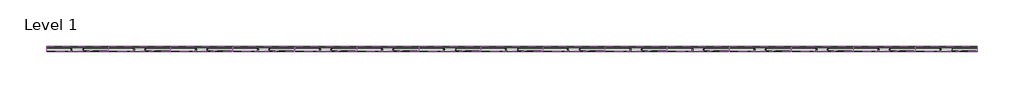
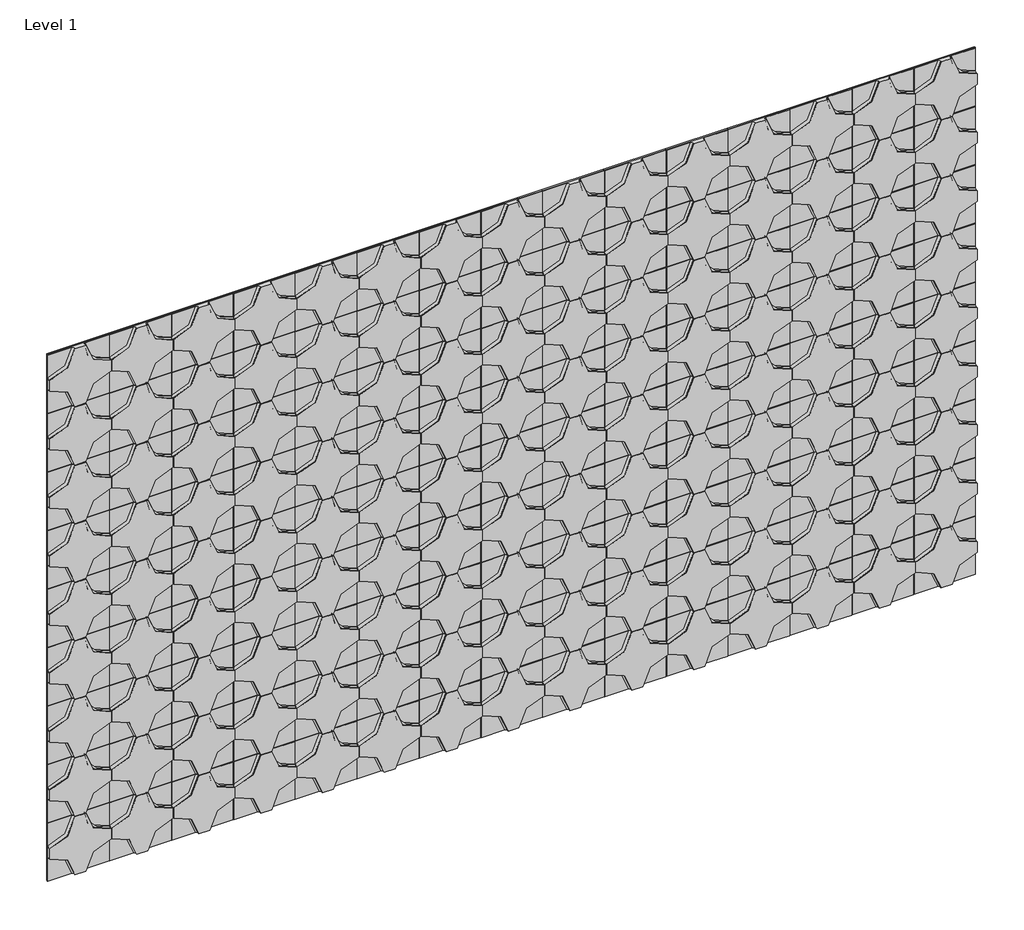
# One storey: 135 proxies.
"""IFC4 building model written with IfcOpenShell, lengths in millimetres."""

from ifc_helpers import new_model, si_unit, origin, place, context, project, spatial, transform, mapped, element, save
from components import specialty_equipment_d3eebbf5

model = new_model("IFC4")

# Units and contexts
model_context = context("Model", 3, world=origin())
ifc_project = project(units=[si_unit("LENGTHUNIT", "METRE", prefix="MILLI")], contexts=[model_context])

# Site, building, storey
site = spatial("IfcSite", under=ifc_project)
building = spatial("IfcBuilding", under=site)
storey = spatial("IfcBuildingStorey", under=building, Name="Level 1", Elevation=0.0)

# Proxies
placement = place(None, origin())
specialty_equipment_shape = specialty_equipment_d3eebbf5(model_context)
element("IfcBuildingElementProxy", 1, Name="Spinneybeck_Quartile : Quartile 1", ObjectType="Spinneybeck_Quartile : Quartile 1", at=placement, inside=storey, context=model_context, shape_type="MappedRepresentation", body=[
    mapped(specialty_equipment_shape, transform((-9133.2606366, 2074.1714817, 152.4), x_axis=(1.0, 0.0, 0.0), y_axis=(0.0, 0.0, 1.0), z_axis=(0.0, -1.0, 0.0))),
])
element("IfcBuildingElementProxy", 2, Name="Spinneybeck_Quartile : Quartile 1", ObjectType="Spinneybeck_Quartile : Quartile 1", at=placement, inside=storey, context=model_context, shape_type="MappedRepresentation", body=[
    mapped(specialty_equipment_shape, transform((-8828.4606366, 2074.1714817, 152.4), x_axis=(1.0, 0.0, 0.0), y_axis=(0.0, 0.0, 1.0), z_axis=(0.0, -1.0, 0.0))),
])
element("IfcBuildingElementProxy", 3, Name="Spinneybeck_Quartile : Quartile 1", ObjectType="Spinneybeck_Quartile : Quartile 1", at=placement, inside=storey, context=model_context, shape_type="MappedRepresentation", body=[
    mapped(specialty_equipment_shape, transform((-8523.6606366, 2074.1714817, 152.4), x_axis=(1.0, 0.0, 0.0), y_axis=(0.0, 0.0, 1.0), z_axis=(0.0, -1.0, 0.0))),
])
element("IfcBuildingElementProxy", 4, Name="Spinneybeck_Quartile : Quartile 1", ObjectType="Spinneybeck_Quartile : Quartile 1", at=placement, inside=storey, context=model_context, shape_type="MappedRepresentation", body=[
    mapped(specialty_equipment_shape, transform((-8218.8606366, 2074.1714817, 152.4), x_axis=(1.0, 0.0, 0.0), y_axis=(0.0, 0.0, 1.0), z_axis=(0.0, -1.0, 0.0))),
])
element("IfcBuildingElementProxy", 5, Name="Spinneybeck_Quartile : Quartile 1", ObjectType="Spinneybeck_Quartile : Quartile 1", at=placement, inside=storey, context=model_context, shape_type="MappedRepresentation", body=[
    mapped(specialty_equipment_shape, transform((-7914.0606366, 2074.1714817, 152.4), x_axis=(1.0, 0.0, 0.0), y_axis=(0.0, 0.0, 1.0), z_axis=(0.0, -1.0, 0.0))),
])
element("IfcBuildingElementProxy", 6, Name="Spinneybeck_Quartile : Quartile 1", ObjectType="Spinneybeck_Quartile : Quartile 1", at=placement, inside=storey, context=model_context, shape_type="MappedRepresentation", body=[
    mapped(specialty_equipment_shape, transform((-7609.2606366, 2074.1714817, 152.4), x_axis=(1.0, 0.0, 0.0), y_axis=(0.0, 0.0, 1.0), z_axis=(0.0, -1.0, 0.0))),
])
element("IfcBuildingElementProxy", 7, Name="Spinneybeck_Quartile : Quartile 1", ObjectType="Spinneybeck_Quartile : Quartile 1", at=placement, inside=storey, context=model_context, shape_type="MappedRepresentation", body=[
    mapped(specialty_equipment_shape, transform((-7304.4606366, 2074.1714817, 152.4), x_axis=(1.0, 0.0, 0.0), y_axis=(0.0, 0.0, 1.0), z_axis=(0.0, -1.0, 0.0))),
])
element("IfcBuildingElementProxy", 8, Name="Spinneybeck_Quartile : Quartile 1", ObjectType="Spinneybeck_Quartile : Quartile 1", at=placement, inside=storey, context=model_context, shape_type="MappedRepresentation", body=[
    mapped(specialty_equipment_shape, transform((-6999.6606366, 2074.1714817, 152.4), x_axis=(1.0, 0.0, 0.0), y_axis=(0.0, 0.0, 1.0), z_axis=(0.0, -1.0, 0.0))),
])
element("IfcBuildingElementProxy", 9, Name="Spinneybeck_Quartile : Quartile 1", ObjectType="Spinneybeck_Quartile : Quartile 1", at=placement, inside=storey, context=model_context, shape_type="MappedRepresentation", body=[
    mapped(specialty_equipment_shape, transform((-6694.8606366, 2074.1714817, 152.4), x_axis=(1.0, 0.0, 0.0), y_axis=(0.0, 0.0, 1.0), z_axis=(0.0, -1.0, 0.0))),
])
element("IfcBuildingElementProxy", 10, Name="Spinneybeck_Quartile : Quartile 1", ObjectType="Spinneybeck_Quartile : Quartile 1", at=placement, inside=storey, context=model_context, shape_type="MappedRepresentation", body=[
    mapped(specialty_equipment_shape, transform((-6390.0606366, 2074.1714817, 152.4), x_axis=(1.0, 0.0, 0.0), y_axis=(0.0, 0.0, 1.0), z_axis=(0.0, -1.0, 0.0))),
])
element("IfcBuildingElementProxy", 11, Name="Spinneybeck_Quartile : Quartile 1", ObjectType="Spinneybeck_Quartile : Quartile 1", at=placement, inside=storey, context=model_context, shape_type="MappedRepresentation", body=[
    mapped(specialty_equipment_shape, transform((-6085.2606366, 2074.1714817, 152.4), x_axis=(1.0, 0.0, 0.0), y_axis=(0.0, 0.0, 1.0), z_axis=(0.0, -1.0, 0.0))),
])
element("IfcBuildingElementProxy", 12, Name="Spinneybeck_Quartile : Quartile 1", ObjectType="Spinneybeck_Quartile : Quartile 1", at=placement, inside=storey, context=model_context, shape_type="MappedRepresentation", body=[
    mapped(specialty_equipment_shape, transform((-5780.4606366, 2074.1714817, 152.4), x_axis=(1.0, 0.0, 0.0), y_axis=(0.0, 0.0, 1.0), z_axis=(0.0, -1.0, 0.0))),
])
element("IfcBuildingElementProxy", 13, Name="Spinneybeck_Quartile : Quartile 1", ObjectType="Spinneybeck_Quartile : Quartile 1", at=placement, inside=storey, context=model_context, shape_type="MappedRepresentation", body=[
    mapped(specialty_equipment_shape, transform((-5475.6606366, 2074.1714817, 152.4), x_axis=(1.0, 0.0, 0.0), y_axis=(0.0, 0.0, 1.0), z_axis=(0.0, -1.0, 0.0))),
])
element("IfcBuildingElementProxy", 14, Name="Spinneybeck_Quartile : Quartile 1", ObjectType="Spinneybeck_Quartile : Quartile 1", at=placement, inside=storey, context=model_context, shape_type="MappedRepresentation", body=[
    mapped(specialty_equipment_shape, transform((-5170.8606366, 2074.1714817, 152.4), x_axis=(1.0, 0.0, 0.0), y_axis=(0.0, 0.0, 1.0), z_axis=(0.0, -1.0, 0.0))),
])
element("IfcBuildingElementProxy", 15, Name="Spinneybeck_Quartile : Quartile 1", ObjectType="Spinneybeck_Quartile : Quartile 1", at=placement, inside=storey, context=model_context, shape_type="MappedRepresentation", body=[
    mapped(specialty_equipment_shape, transform((-4866.0606366, 2074.1714817, 152.4), x_axis=(1.0, 0.0, 0.0), y_axis=(0.0, 0.0, 1.0), z_axis=(0.0, -1.0, 0.0))),
])
element("IfcBuildingElementProxy", 16, Name="Spinneybeck_Quartile : Quartile 1", ObjectType="Spinneybeck_Quartile : Quartile 1", at=placement, inside=storey, context=model_context, shape_type="MappedRepresentation", body=[
    mapped(specialty_equipment_shape, transform((-9133.2606366, 2074.1714817, 457.2), x_axis=(1.0, 0.0, 0.0), y_axis=(0.0, 0.0, 1.0), z_axis=(0.0, -1.0, 0.0))),
])
element("IfcBuildingElementProxy", 17, Name="Spinneybeck_Quartile : Quartile 1", ObjectType="Spinneybeck_Quartile : Quartile 1", at=placement, inside=storey, context=model_context, shape_type="MappedRepresentation", body=[
    mapped(specialty_equipment_shape, transform((-8828.4606366, 2074.1714817, 457.2), x_axis=(1.0, 0.0, 0.0), y_axis=(0.0, 0.0, 1.0), z_axis=(0.0, -1.0, 0.0))),
])
element("IfcBuildingElementProxy", 18, Name="Spinneybeck_Quartile : Quartile 1", ObjectType="Spinneybeck_Quartile : Quartile 1", at=placement, inside=storey, context=model_context, shape_type="MappedRepresentation", body=[
    mapped(specialty_equipment_shape, transform((-8523.6606366, 2074.1714817, 457.2), x_axis=(1.0, 0.0, 0.0), y_axis=(0.0, 0.0, 1.0), z_axis=(0.0, -1.0, 0.0))),
])
element("IfcBuildingElementProxy", 19, Name="Spinneybeck_Quartile : Quartile 1", ObjectType="Spinneybeck_Quartile : Quartile 1", at=placement, inside=storey, context=model_context, shape_type="MappedRepresentation", body=[
    mapped(specialty_equipment_shape, transform((-8218.8606366, 2074.1714817, 457.2), x_axis=(1.0, 0.0, 0.0), y_axis=(0.0, 0.0, 1.0), z_axis=(0.0, -1.0, 0.0))),
])
element("IfcBuildingElementProxy", 20, Name="Spinneybeck_Quartile : Quartile 1", ObjectType="Spinneybeck_Quartile : Quartile 1", at=placement, inside=storey, context=model_context, shape_type="MappedRepresentation", body=[
    mapped(specialty_equipment_shape, transform((-7914.0606366, 2074.1714817, 457.2), x_axis=(1.0, 0.0, 0.0), y_axis=(0.0, 0.0, 1.0), z_axis=(0.0, -1.0, 0.0))),
])
element("IfcBuildingElementProxy", 21, Name="Spinneybeck_Quartile : Quartile 1", ObjectType="Spinneybeck_Quartile : Quartile 1", at=placement, inside=storey, context=model_context, shape_type="MappedRepresentation", body=[
    mapped(specialty_equipment_shape, transform((-7609.2606366, 2074.1714817, 457.2), x_axis=(1.0, 0.0, 0.0), y_axis=(0.0, 0.0, 1.0), z_axis=(0.0, -1.0, 0.0))),
])
element("IfcBuildingElementProxy", 22, Name="Spinneybeck_Quartile : Quartile 1", ObjectType="Spinneybeck_Quartile : Quartile 1", at=placement, inside=storey, context=model_context, shape_type="MappedRepresentation", body=[
    mapped(specialty_equipment_shape, transform((-7304.4606366, 2074.1714817, 457.2), x_axis=(1.0, 0.0, 0.0), y_axis=(0.0, 0.0, 1.0), z_axis=(0.0, -1.0, 0.0))),
])
element("IfcBuildingElementProxy", 23, Name="Spinneybeck_Quartile : Quartile 1", ObjectType="Spinneybeck_Quartile : Quartile 1", at=placement, inside=storey, context=model_context, shape_type="MappedRepresentation", body=[
    mapped(specialty_equipment_shape, transform((-6999.6606366, 2074.1714817, 457.2), x_axis=(1.0, 0.0, 0.0), y_axis=(0.0, 0.0, 1.0), z_axis=(0.0, -1.0, 0.0))),
])
element("IfcBuildingElementProxy", 24, Name="Spinneybeck_Quartile : Quartile 1", ObjectType="Spinneybeck_Quartile : Quartile 1", at=placement, inside=storey, context=model_context, shape_type="MappedRepresentation", body=[
    mapped(specialty_equipment_shape, transform((-6694.8606366, 2074.1714817, 457.2), x_axis=(1.0, 0.0, 0.0), y_axis=(0.0, 0.0, 1.0), z_axis=(0.0, -1.0, 0.0))),
])
element("IfcBuildingElementProxy", 25, Name="Spinneybeck_Quartile : Quartile 1", ObjectType="Spinneybeck_Quartile : Quartile 1", at=placement, inside=storey, context=model_context, shape_type="MappedRepresentation", body=[
    mapped(specialty_equipment_shape, transform((-6390.0606366, 2074.1714817, 457.2), x_axis=(1.0, 0.0, 0.0), y_axis=(0.0, 0.0, 1.0), z_axis=(0.0, -1.0, 0.0))),
])
element("IfcBuildingElementProxy", 26, Name="Spinneybeck_Quartile : Quartile 1", ObjectType="Spinneybeck_Quartile : Quartile 1", at=placement, inside=storey, context=model_context, shape_type="MappedRepresentation", body=[
    mapped(specialty_equipment_shape, transform((-6085.2606366, 2074.1714817, 457.2), x_axis=(1.0, 0.0, 0.0), y_axis=(0.0, 0.0, 1.0), z_axis=(0.0, -1.0, 0.0))),
])
element("IfcBuildingElementProxy", 27, Name="Spinneybeck_Quartile : Quartile 1", ObjectType="Spinneybeck_Quartile : Quartile 1", at=placement, inside=storey, context=model_context, shape_type="MappedRepresentation", body=[
    mapped(specialty_equipment_shape, transform((-5780.4606366, 2074.1714817, 457.2), x_axis=(1.0, 0.0, 0.0), y_axis=(0.0, 0.0, 1.0), z_axis=(0.0, -1.0, 0.0))),
])
element("IfcBuildingElementProxy", 28, Name="Spinneybeck_Quartile : Quartile 1", ObjectType="Spinneybeck_Quartile : Quartile 1", at=placement, inside=storey, context=model_context, shape_type="MappedRepresentation", body=[
    mapped(specialty_equipment_shape, transform((-5475.6606366, 2074.1714817, 457.2), x_axis=(1.0, 0.0, 0.0), y_axis=(0.0, 0.0, 1.0), z_axis=(0.0, -1.0, 0.0))),
])
element("IfcBuildingElementProxy", 29, Name="Spinneybeck_Quartile : Quartile 1", ObjectType="Spinneybeck_Quartile : Quartile 1", at=placement, inside=storey, context=model_context, shape_type="MappedRepresentation", body=[
    mapped(specialty_equipment_shape, transform((-5170.8606366, 2074.1714817, 457.2), x_axis=(1.0, 0.0, 0.0), y_axis=(0.0, 0.0, 1.0), z_axis=(0.0, -1.0, 0.0))),
])
element("IfcBuildingElementProxy", 30, Name="Spinneybeck_Quartile : Quartile 1", ObjectType="Spinneybeck_Quartile : Quartile 1", at=placement, inside=storey, context=model_context, shape_type="MappedRepresentation", body=[
    mapped(specialty_equipment_shape, transform((-4866.0606366, 2074.1714817, 457.2), x_axis=(1.0, 0.0, 0.0), y_axis=(0.0, 0.0, 1.0), z_axis=(0.0, -1.0, 0.0))),
])
element("IfcBuildingElementProxy", 31, Name="Spinneybeck_Quartile : Quartile 1", ObjectType="Spinneybeck_Quartile : Quartile 1", at=placement, inside=storey, context=model_context, shape_type="MappedRepresentation", body=[
    mapped(specialty_equipment_shape, transform((-9133.2606366, 2074.1714817, 762.0), x_axis=(1.0, 0.0, 0.0), y_axis=(0.0, 0.0, 1.0), z_axis=(0.0, -1.0, 0.0))),
])
element("IfcBuildingElementProxy", 32, Name="Spinneybeck_Quartile : Quartile 1", ObjectType="Spinneybeck_Quartile : Quartile 1", at=placement, inside=storey, context=model_context, shape_type="MappedRepresentation", body=[
    mapped(specialty_equipment_shape, transform((-8828.4606366, 2074.1714817, 762.0), x_axis=(1.0, 0.0, 0.0), y_axis=(0.0, 0.0, 1.0), z_axis=(0.0, -1.0, 0.0))),
])
element("IfcBuildingElementProxy", 33, Name="Spinneybeck_Quartile : Quartile 1", ObjectType="Spinneybeck_Quartile : Quartile 1", at=placement, inside=storey, context=model_context, shape_type="MappedRepresentation", body=[
    mapped(specialty_equipment_shape, transform((-8523.6606366, 2074.1714817, 762.0), x_axis=(1.0, 0.0, 0.0), y_axis=(0.0, 0.0, 1.0), z_axis=(0.0, -1.0, 0.0))),
])
element("IfcBuildingElementProxy", 34, Name="Spinneybeck_Quartile : Quartile 1", ObjectType="Spinneybeck_Quartile : Quartile 1", at=placement, inside=storey, context=model_context, shape_type="MappedRepresentation", body=[
    mapped(specialty_equipment_shape, transform((-8218.8606366, 2074.1714817, 762.0), x_axis=(1.0, 0.0, 0.0), y_axis=(0.0, 0.0, 1.0), z_axis=(0.0, -1.0, 0.0))),
])
element("IfcBuildingElementProxy", 35, Name="Spinneybeck_Quartile : Quartile 1", ObjectType="Spinneybeck_Quartile : Quartile 1", at=placement, inside=storey, context=model_context, shape_type="MappedRepresentation", body=[
    mapped(specialty_equipment_shape, transform((-7914.0606366, 2074.1714817, 762.0), x_axis=(1.0, 0.0, 0.0), y_axis=(0.0, 0.0, 1.0), z_axis=(0.0, -1.0, 0.0))),
])
element("IfcBuildingElementProxy", 36, Name="Spinneybeck_Quartile : Quartile 1", ObjectType="Spinneybeck_Quartile : Quartile 1", at=placement, inside=storey, context=model_context, shape_type="MappedRepresentation", body=[
    mapped(specialty_equipment_shape, transform((-7609.2606366, 2074.1714817, 762.0), x_axis=(1.0, 0.0, 0.0), y_axis=(0.0, 0.0, 1.0), z_axis=(0.0, -1.0, 0.0))),
])
element("IfcBuildingElementProxy", 37, Name="Spinneybeck_Quartile : Quartile 1", ObjectType="Spinneybeck_Quartile : Quartile 1", at=placement, inside=storey, context=model_context, shape_type="MappedRepresentation", body=[
    mapped(specialty_equipment_shape, transform((-7304.4606366, 2074.1714817, 762.0), x_axis=(1.0, 0.0, 0.0), y_axis=(0.0, 0.0, 1.0), z_axis=(0.0, -1.0, 0.0))),
])
element("IfcBuildingElementProxy", 38, Name="Spinneybeck_Quartile : Quartile 1", ObjectType="Spinneybeck_Quartile : Quartile 1", at=placement, inside=storey, context=model_context, shape_type="MappedRepresentation", body=[
    mapped(specialty_equipment_shape, transform((-6999.6606366, 2074.1714817, 762.0), x_axis=(1.0, 0.0, 0.0), y_axis=(0.0, 0.0, 1.0), z_axis=(0.0, -1.0, 0.0))),
])
element("IfcBuildingElementProxy", 39, Name="Spinneybeck_Quartile : Quartile 1", ObjectType="Spinneybeck_Quartile : Quartile 1", at=placement, inside=storey, context=model_context, shape_type="MappedRepresentation", body=[
    mapped(specialty_equipment_shape, transform((-6694.8606366, 2074.1714817, 762.0), x_axis=(1.0, 0.0, 0.0), y_axis=(0.0, 0.0, 1.0), z_axis=(0.0, -1.0, 0.0))),
])
element("IfcBuildingElementProxy", 40, Name="Spinneybeck_Quartile : Quartile 1", ObjectType="Spinneybeck_Quartile : Quartile 1", at=placement, inside=storey, context=model_context, shape_type="MappedRepresentation", body=[
    mapped(specialty_equipment_shape, transform((-6390.0606366, 2074.1714817, 762.0), x_axis=(1.0, 0.0, 0.0), y_axis=(0.0, 0.0, 1.0), z_axis=(0.0, -1.0, 0.0))),
])
element("IfcBuildingElementProxy", 41, Name="Spinneybeck_Quartile : Quartile 1", ObjectType="Spinneybeck_Quartile : Quartile 1", at=placement, inside=storey, context=model_context, shape_type="MappedRepresentation", body=[
    mapped(specialty_equipment_shape, transform((-6085.2606366, 2074.1714817, 762.0), x_axis=(1.0, 0.0, 0.0), y_axis=(0.0, 0.0, 1.0), z_axis=(0.0, -1.0, 0.0))),
])
element("IfcBuildingElementProxy", 42, Name="Spinneybeck_Quartile : Quartile 1", ObjectType="Spinneybeck_Quartile : Quartile 1", at=placement, inside=storey, context=model_context, shape_type="MappedRepresentation", body=[
    mapped(specialty_equipment_shape, transform((-5780.4606366, 2074.1714817, 762.0), x_axis=(1.0, 0.0, 0.0), y_axis=(0.0, 0.0, 1.0), z_axis=(0.0, -1.0, 0.0))),
])
element("IfcBuildingElementProxy", 43, Name="Spinneybeck_Quartile : Quartile 1", ObjectType="Spinneybeck_Quartile : Quartile 1", at=placement, inside=storey, context=model_context, shape_type="MappedRepresentation", body=[
    mapped(specialty_equipment_shape, transform((-5475.6606366, 2074.1714817, 762.0), x_axis=(1.0, 0.0, 0.0), y_axis=(0.0, 0.0, 1.0), z_axis=(0.0, -1.0, 0.0))),
])
element("IfcBuildingElementProxy", 44, Name="Spinneybeck_Quartile : Quartile 1", ObjectType="Spinneybeck_Quartile : Quartile 1", at=placement, inside=storey, context=model_context, shape_type="MappedRepresentation", body=[
    mapped(specialty_equipment_shape, transform((-5170.8606366, 2074.1714817, 762.0), x_axis=(1.0, 0.0, 0.0), y_axis=(0.0, 0.0, 1.0), z_axis=(0.0, -1.0, 0.0))),
])
element("IfcBuildingElementProxy", 45, Name="Spinneybeck_Quartile : Quartile 1", ObjectType="Spinneybeck_Quartile : Quartile 1", at=placement, inside=storey, context=model_context, shape_type="MappedRepresentation", body=[
    mapped(specialty_equipment_shape, transform((-4866.0606366, 2074.1714817, 762.0), x_axis=(1.0, 0.0, 0.0), y_axis=(0.0, 0.0, 1.0), z_axis=(0.0, -1.0, 0.0))),
])
element("IfcBuildingElementProxy", 46, Name="Spinneybeck_Quartile : Quartile 1", ObjectType="Spinneybeck_Quartile : Quartile 1", at=placement, inside=storey, context=model_context, shape_type="MappedRepresentation", body=[
    mapped(specialty_equipment_shape, transform((-9133.2606366, 2074.1714817, 1066.8), x_axis=(1.0, 0.0, 0.0), y_axis=(0.0, 0.0, 1.0), z_axis=(0.0, -1.0, 0.0))),
])
element("IfcBuildingElementProxy", 47, Name="Spinneybeck_Quartile : Quartile 1", ObjectType="Spinneybeck_Quartile : Quartile 1", at=placement, inside=storey, context=model_context, shape_type="MappedRepresentation", body=[
    mapped(specialty_equipment_shape, transform((-8828.4606366, 2074.1714817, 1066.8), x_axis=(1.0, 0.0, 0.0), y_axis=(0.0, 0.0, 1.0), z_axis=(0.0, -1.0, 0.0))),
])
element("IfcBuildingElementProxy", 48, Name="Spinneybeck_Quartile : Quartile 1", ObjectType="Spinneybeck_Quartile : Quartile 1", at=placement, inside=storey, context=model_context, shape_type="MappedRepresentation", body=[
    mapped(specialty_equipment_shape, transform((-8523.6606366, 2074.1714817, 1066.8), x_axis=(1.0, 0.0, 0.0), y_axis=(0.0, 0.0, 1.0), z_axis=(0.0, -1.0, 0.0))),
])
element("IfcBuildingElementProxy", 49, Name="Spinneybeck_Quartile : Quartile 1", ObjectType="Spinneybeck_Quartile : Quartile 1", at=placement, inside=storey, context=model_context, shape_type="MappedRepresentation", body=[
    mapped(specialty_equipment_shape, transform((-8218.8606366, 2074.1714817, 1066.8), x_axis=(1.0, 0.0, 0.0), y_axis=(0.0, 0.0, 1.0), z_axis=(0.0, -1.0, 0.0))),
])
element("IfcBuildingElementProxy", 50, Name="Spinneybeck_Quartile : Quartile 1", ObjectType="Spinneybeck_Quartile : Quartile 1", at=placement, inside=storey, context=model_context, shape_type="MappedRepresentation", body=[
    mapped(specialty_equipment_shape, transform((-7914.0606366, 2074.1714817, 1066.8), x_axis=(1.0, 0.0, 0.0), y_axis=(0.0, 0.0, 1.0), z_axis=(0.0, -1.0, 0.0))),
])
element("IfcBuildingElementProxy", 51, Name="Spinneybeck_Quartile : Quartile 1", ObjectType="Spinneybeck_Quartile : Quartile 1", at=placement, inside=storey, context=model_context, shape_type="MappedRepresentation", body=[
    mapped(specialty_equipment_shape, transform((-7609.2606366, 2074.1714817, 1066.8), x_axis=(1.0, 0.0, 0.0), y_axis=(0.0, 0.0, 1.0), z_axis=(0.0, -1.0, 0.0))),
])
element("IfcBuildingElementProxy", 52, Name="Spinneybeck_Quartile : Quartile 1", ObjectType="Spinneybeck_Quartile : Quartile 1", at=placement, inside=storey, context=model_context, shape_type="MappedRepresentation", body=[
    mapped(specialty_equipment_shape, transform((-7304.4606366, 2074.1714817, 1066.8), x_axis=(1.0, 0.0, 0.0), y_axis=(0.0, 0.0, 1.0), z_axis=(0.0, -1.0, 0.0))),
])
element("IfcBuildingElementProxy", 53, Name="Spinneybeck_Quartile : Quartile 1", ObjectType="Spinneybeck_Quartile : Quartile 1", at=placement, inside=storey, context=model_context, shape_type="MappedRepresentation", body=[
    mapped(specialty_equipment_shape, transform((-6999.6606366, 2074.1714817, 1066.8), x_axis=(1.0, 0.0, 0.0), y_axis=(0.0, 0.0, 1.0), z_axis=(0.0, -1.0, 0.0))),
])
element("IfcBuildingElementProxy", 54, Name="Spinneybeck_Quartile : Quartile 1", ObjectType="Spinneybeck_Quartile : Quartile 1", at=placement, inside=storey, context=model_context, shape_type="MappedRepresentation", body=[
    mapped(specialty_equipment_shape, transform((-6694.8606366, 2074.1714817, 1066.8), x_axis=(1.0, 0.0, 0.0), y_axis=(0.0, 0.0, 1.0), z_axis=(0.0, -1.0, 0.0))),
])
element("IfcBuildingElementProxy", 55, Name="Spinneybeck_Quartile : Quartile 1", ObjectType="Spinneybeck_Quartile : Quartile 1", at=placement, inside=storey, context=model_context, shape_type="MappedRepresentation", body=[
    mapped(specialty_equipment_shape, transform((-6390.0606366, 2074.1714817, 1066.8), x_axis=(1.0, 0.0, 0.0), y_axis=(0.0, 0.0, 1.0), z_axis=(0.0, -1.0, 0.0))),
])
element("IfcBuildingElementProxy", 56, Name="Spinneybeck_Quartile : Quartile 1", ObjectType="Spinneybeck_Quartile : Quartile 1", at=placement, inside=storey, context=model_context, shape_type="MappedRepresentation", body=[
    mapped(specialty_equipment_shape, transform((-6085.2606366, 2074.1714817, 1066.8), x_axis=(1.0, 0.0, 0.0), y_axis=(0.0, 0.0, 1.0), z_axis=(0.0, -1.0, 0.0))),
])
element("IfcBuildingElementProxy", 57, Name="Spinneybeck_Quartile : Quartile 1", ObjectType="Spinneybeck_Quartile : Quartile 1", at=placement, inside=storey, context=model_context, shape_type="MappedRepresentation", body=[
    mapped(specialty_equipment_shape, transform((-5780.4606366, 2074.1714817, 1066.8), x_axis=(1.0, 0.0, 0.0), y_axis=(0.0, 0.0, 1.0), z_axis=(0.0, -1.0, 0.0))),
])
element("IfcBuildingElementProxy", 58, Name="Spinneybeck_Quartile : Quartile 1", ObjectType="Spinneybeck_Quartile : Quartile 1", at=placement, inside=storey, context=model_context, shape_type="MappedRepresentation", body=[
    mapped(specialty_equipment_shape, transform((-5475.6606366, 2074.1714817, 1066.8), x_axis=(1.0, 0.0, 0.0), y_axis=(0.0, 0.0, 1.0), z_axis=(0.0, -1.0, 0.0))),
])
element("IfcBuildingElementProxy", 59, Name="Spinneybeck_Quartile : Quartile 1", ObjectType="Spinneybeck_Quartile : Quartile 1", at=placement, inside=storey, context=model_context, shape_type="MappedRepresentation", body=[
    mapped(specialty_equipment_shape, transform((-5170.8606366, 2074.1714817, 1066.8), x_axis=(1.0, 0.0, 0.0), y_axis=(0.0, 0.0, 1.0), z_axis=(0.0, -1.0, 0.0))),
])
element("IfcBuildingElementProxy", 60, Name="Spinneybeck_Quartile : Quartile 1", ObjectType="Spinneybeck_Quartile : Quartile 1", at=placement, inside=storey, context=model_context, shape_type="MappedRepresentation", body=[
    mapped(specialty_equipment_shape, transform((-4866.0606366, 2074.1714817, 1066.8), x_axis=(1.0, 0.0, 0.0), y_axis=(0.0, 0.0, 1.0), z_axis=(0.0, -1.0, 0.0))),
])
element("IfcBuildingElementProxy", 61, Name="Spinneybeck_Quartile : Quartile 1", ObjectType="Spinneybeck_Quartile : Quartile 1", at=placement, inside=storey, context=model_context, shape_type="MappedRepresentation", body=[
    mapped(specialty_equipment_shape, transform((-9133.2606366, 2074.1714817, 1371.6), x_axis=(1.0, 0.0, 0.0), y_axis=(0.0, 0.0, 1.0), z_axis=(0.0, -1.0, 0.0))),
])
element("IfcBuildingElementProxy", 62, Name="Spinneybeck_Quartile : Quartile 1", ObjectType="Spinneybeck_Quartile : Quartile 1", at=placement, inside=storey, context=model_context, shape_type="MappedRepresentation", body=[
    mapped(specialty_equipment_shape, transform((-8828.4606366, 2074.1714817, 1371.6), x_axis=(1.0, 0.0, 0.0), y_axis=(0.0, 0.0, 1.0), z_axis=(0.0, -1.0, 0.0))),
])
element("IfcBuildingElementProxy", 63, Name="Spinneybeck_Quartile : Quartile 1", ObjectType="Spinneybeck_Quartile : Quartile 1", at=placement, inside=storey, context=model_context, shape_type="MappedRepresentation", body=[
    mapped(specialty_equipment_shape, transform((-8523.6606366, 2074.1714817, 1371.6), x_axis=(1.0, 0.0, 0.0), y_axis=(0.0, 0.0, 1.0), z_axis=(0.0, -1.0, 0.0))),
])
element("IfcBuildingElementProxy", 64, Name="Spinneybeck_Quartile : Quartile 1", ObjectType="Spinneybeck_Quartile : Quartile 1", at=placement, inside=storey, context=model_context, shape_type="MappedRepresentation", body=[
    mapped(specialty_equipment_shape, transform((-8218.8606366, 2074.1714817, 1371.6), x_axis=(1.0, 0.0, 0.0), y_axis=(0.0, 0.0, 1.0), z_axis=(0.0, -1.0, 0.0))),
])
element("IfcBuildingElementProxy", 65, Name="Spinneybeck_Quartile : Quartile 1", ObjectType="Spinneybeck_Quartile : Quartile 1", at=placement, inside=storey, context=model_context, shape_type="MappedRepresentation", body=[
    mapped(specialty_equipment_shape, transform((-7914.0606366, 2074.1714817, 1371.6), x_axis=(1.0, 0.0, 0.0), y_axis=(0.0, 0.0, 1.0), z_axis=(0.0, -1.0, 0.0))),
])
element("IfcBuildingElementProxy", 66, Name="Spinneybeck_Quartile : Quartile 1", ObjectType="Spinneybeck_Quartile : Quartile 1", at=placement, inside=storey, context=model_context, shape_type="MappedRepresentation", body=[
    mapped(specialty_equipment_shape, transform((-7609.2606366, 2074.1714817, 1371.6), x_axis=(1.0, 0.0, 0.0), y_axis=(0.0, 0.0, 1.0), z_axis=(0.0, -1.0, 0.0))),
])
element("IfcBuildingElementProxy", 67, Name="Spinneybeck_Quartile : Quartile 1", ObjectType="Spinneybeck_Quartile : Quartile 1", at=placement, inside=storey, context=model_context, shape_type="MappedRepresentation", body=[
    mapped(specialty_equipment_shape, transform((-7304.4606366, 2074.1714817, 1371.6), x_axis=(1.0, 0.0, 0.0), y_axis=(0.0, 0.0, 1.0), z_axis=(0.0, -1.0, 0.0))),
])
element("IfcBuildingElementProxy", 68, Name="Spinneybeck_Quartile : Quartile 1", ObjectType="Spinneybeck_Quartile : Quartile 1", at=placement, inside=storey, context=model_context, shape_type="MappedRepresentation", body=[
    mapped(specialty_equipment_shape, transform((-6999.6606366, 2074.1714817, 1371.6), x_axis=(1.0, 0.0, 0.0), y_axis=(0.0, 0.0, 1.0), z_axis=(0.0, -1.0, 0.0))),
])
element("IfcBuildingElementProxy", 69, Name="Spinneybeck_Quartile : Quartile 1", ObjectType="Spinneybeck_Quartile : Quartile 1", at=placement, inside=storey, context=model_context, shape_type="MappedRepresentation", body=[
    mapped(specialty_equipment_shape, transform((-6694.8606366, 2074.1714817, 1371.6), x_axis=(1.0, 0.0, 0.0), y_axis=(0.0, 0.0, 1.0), z_axis=(0.0, -1.0, 0.0))),
])
element("IfcBuildingElementProxy", 70, Name="Spinneybeck_Quartile : Quartile 1", ObjectType="Spinneybeck_Quartile : Quartile 1", at=placement, inside=storey, context=model_context, shape_type="MappedRepresentation", body=[
    mapped(specialty_equipment_shape, transform((-6390.0606366, 2074.1714817, 1371.6), x_axis=(1.0, 0.0, 0.0), y_axis=(0.0, 0.0, 1.0), z_axis=(0.0, -1.0, 0.0))),
])
element("IfcBuildingElementProxy", 71, Name="Spinneybeck_Quartile : Quartile 1", ObjectType="Spinneybeck_Quartile : Quartile 1", at=placement, inside=storey, context=model_context, shape_type="MappedRepresentation", body=[
    mapped(specialty_equipment_shape, transform((-6085.2606366, 2074.1714817, 1371.6), x_axis=(1.0, 0.0, 0.0), y_axis=(0.0, 0.0, 1.0), z_axis=(0.0, -1.0, 0.0))),
])
element("IfcBuildingElementProxy", 72, Name="Spinneybeck_Quartile : Quartile 1", ObjectType="Spinneybeck_Quartile : Quartile 1", at=placement, inside=storey, context=model_context, shape_type="MappedRepresentation", body=[
    mapped(specialty_equipment_shape, transform((-5780.4606366, 2074.1714817, 1371.6), x_axis=(1.0, 0.0, 0.0), y_axis=(0.0, 0.0, 1.0), z_axis=(0.0, -1.0, 0.0))),
])
element("IfcBuildingElementProxy", 73, Name="Spinneybeck_Quartile : Quartile 1", ObjectType="Spinneybeck_Quartile : Quartile 1", at=placement, inside=storey, context=model_context, shape_type="MappedRepresentation", body=[
    mapped(specialty_equipment_shape, transform((-5475.6606366, 2074.1714817, 1371.6), x_axis=(1.0, 0.0, 0.0), y_axis=(0.0, 0.0, 1.0), z_axis=(0.0, -1.0, 0.0))),
])
element("IfcBuildingElementProxy", 74, Name="Spinneybeck_Quartile : Quartile 1", ObjectType="Spinneybeck_Quartile : Quartile 1", at=placement, inside=storey, context=model_context, shape_type="MappedRepresentation", body=[
    mapped(specialty_equipment_shape, transform((-5170.8606366, 2074.1714817, 1371.6), x_axis=(1.0, 0.0, 0.0), y_axis=(0.0, 0.0, 1.0), z_axis=(0.0, -1.0, 0.0))),
])
element("IfcBuildingElementProxy", 75, Name="Spinneybeck_Quartile : Quartile 1", ObjectType="Spinneybeck_Quartile : Quartile 1", at=placement, inside=storey, context=model_context, shape_type="MappedRepresentation", body=[
    mapped(specialty_equipment_shape, transform((-4866.0606366, 2074.1714817, 1371.6), x_axis=(1.0, 0.0, 0.0), y_axis=(0.0, 0.0, 1.0), z_axis=(0.0, -1.0, 0.0))),
])
element("IfcBuildingElementProxy", 76, Name="Spinneybeck_Quartile : Quartile 1", ObjectType="Spinneybeck_Quartile : Quartile 1", at=placement, inside=storey, context=model_context, shape_type="MappedRepresentation", body=[
    mapped(specialty_equipment_shape, transform((-9133.2606366, 2074.1714817, 1676.4), x_axis=(1.0, 0.0, 0.0), y_axis=(0.0, 0.0, 1.0), z_axis=(0.0, -1.0, 0.0))),
])
element("IfcBuildingElementProxy", 77, Name="Spinneybeck_Quartile : Quartile 1", ObjectType="Spinneybeck_Quartile : Quartile 1", at=placement, inside=storey, context=model_context, shape_type="MappedRepresentation", body=[
    mapped(specialty_equipment_shape, transform((-8828.4606366, 2074.1714817, 1676.4), x_axis=(1.0, 0.0, 0.0), y_axis=(0.0, 0.0, 1.0), z_axis=(0.0, -1.0, 0.0))),
])
element("IfcBuildingElementProxy", 78, Name="Spinneybeck_Quartile : Quartile 1", ObjectType="Spinneybeck_Quartile : Quartile 1", at=placement, inside=storey, context=model_context, shape_type="MappedRepresentation", body=[
    mapped(specialty_equipment_shape, transform((-8523.6606366, 2074.1714817, 1676.4), x_axis=(1.0, 0.0, 0.0), y_axis=(0.0, 0.0, 1.0), z_axis=(0.0, -1.0, 0.0))),
])
element("IfcBuildingElementProxy", 79, Name="Spinneybeck_Quartile : Quartile 1", ObjectType="Spinneybeck_Quartile : Quartile 1", at=placement, inside=storey, context=model_context, shape_type="MappedRepresentation", body=[
    mapped(specialty_equipment_shape, transform((-8218.8606366, 2074.1714817, 1676.4), x_axis=(1.0, 0.0, 0.0), y_axis=(0.0, 0.0, 1.0), z_axis=(0.0, -1.0, 0.0))),
])
element("IfcBuildingElementProxy", 80, Name="Spinneybeck_Quartile : Quartile 1", ObjectType="Spinneybeck_Quartile : Quartile 1", at=placement, inside=storey, context=model_context, shape_type="MappedRepresentation", body=[
    mapped(specialty_equipment_shape, transform((-7914.0606366, 2074.1714817, 1676.4), x_axis=(1.0, 0.0, 0.0), y_axis=(0.0, 0.0, 1.0), z_axis=(0.0, -1.0, 0.0))),
])
element("IfcBuildingElementProxy", 81, Name="Spinneybeck_Quartile : Quartile 1", ObjectType="Spinneybeck_Quartile : Quartile 1", at=placement, inside=storey, context=model_context, shape_type="MappedRepresentation", body=[
    mapped(specialty_equipment_shape, transform((-7609.2606366, 2074.1714817, 1676.4), x_axis=(1.0, 0.0, 0.0), y_axis=(0.0, 0.0, 1.0), z_axis=(0.0, -1.0, 0.0))),
])
element("IfcBuildingElementProxy", 82, Name="Spinneybeck_Quartile : Quartile 1", ObjectType="Spinneybeck_Quartile : Quartile 1", at=placement, inside=storey, context=model_context, shape_type="MappedRepresentation", body=[
    mapped(specialty_equipment_shape, transform((-7304.4606366, 2074.1714817, 1676.4), x_axis=(1.0, 0.0, 0.0), y_axis=(0.0, 0.0, 1.0), z_axis=(0.0, -1.0, 0.0))),
])
element("IfcBuildingElementProxy", 83, Name="Spinneybeck_Quartile : Quartile 1", ObjectType="Spinneybeck_Quartile : Quartile 1", at=placement, inside=storey, context=model_context, shape_type="MappedRepresentation", body=[
    mapped(specialty_equipment_shape, transform((-6999.6606366, 2074.1714817, 1676.4), x_axis=(1.0, 0.0, 0.0), y_axis=(0.0, 0.0, 1.0), z_axis=(0.0, -1.0, 0.0))),
])
element("IfcBuildingElementProxy", 84, Name="Spinneybeck_Quartile : Quartile 1", ObjectType="Spinneybeck_Quartile : Quartile 1", at=placement, inside=storey, context=model_context, shape_type="MappedRepresentation", body=[
    mapped(specialty_equipment_shape, transform((-6694.8606366, 2074.1714817, 1676.4), x_axis=(1.0, 0.0, 0.0), y_axis=(0.0, 0.0, 1.0), z_axis=(0.0, -1.0, 0.0))),
])
element("IfcBuildingElementProxy", 85, Name="Spinneybeck_Quartile : Quartile 1", ObjectType="Spinneybeck_Quartile : Quartile 1", at=placement, inside=storey, context=model_context, shape_type="MappedRepresentation", body=[
    mapped(specialty_equipment_shape, transform((-6390.0606366, 2074.1714817, 1676.4), x_axis=(1.0, 0.0, 0.0), y_axis=(0.0, 0.0, 1.0), z_axis=(0.0, -1.0, 0.0))),
])
element("IfcBuildingElementProxy", 86, Name="Spinneybeck_Quartile : Quartile 1", ObjectType="Spinneybeck_Quartile : Quartile 1", at=placement, inside=storey, context=model_context, shape_type="MappedRepresentation", body=[
    mapped(specialty_equipment_shape, transform((-6085.2606366, 2074.1714817, 1676.4), x_axis=(1.0, 0.0, 0.0), y_axis=(0.0, 0.0, 1.0), z_axis=(0.0, -1.0, 0.0))),
])
element("IfcBuildingElementProxy", 87, Name="Spinneybeck_Quartile : Quartile 1", ObjectType="Spinneybeck_Quartile : Quartile 1", at=placement, inside=storey, context=model_context, shape_type="MappedRepresentation", body=[
    mapped(specialty_equipment_shape, transform((-5780.4606366, 2074.1714817, 1676.4), x_axis=(1.0, 0.0, 0.0), y_axis=(0.0, 0.0, 1.0), z_axis=(0.0, -1.0, 0.0))),
])
element("IfcBuildingElementProxy", 88, Name="Spinneybeck_Quartile : Quartile 1", ObjectType="Spinneybeck_Quartile : Quartile 1", at=placement, inside=storey, context=model_context, shape_type="MappedRepresentation", body=[
    mapped(specialty_equipment_shape, transform((-5475.6606366, 2074.1714817, 1676.4), x_axis=(1.0, 0.0, 0.0), y_axis=(0.0, 0.0, 1.0), z_axis=(0.0, -1.0, 0.0))),
])
element("IfcBuildingElementProxy", 89, Name="Spinneybeck_Quartile : Quartile 1", ObjectType="Spinneybeck_Quartile : Quartile 1", at=placement, inside=storey, context=model_context, shape_type="MappedRepresentation", body=[
    mapped(specialty_equipment_shape, transform((-5170.8606366, 2074.1714817, 1676.4), x_axis=(1.0, 0.0, 0.0), y_axis=(0.0, 0.0, 1.0), z_axis=(0.0, -1.0, 0.0))),
])
element("IfcBuildingElementProxy", 90, Name="Spinneybeck_Quartile : Quartile 1", ObjectType="Spinneybeck_Quartile : Quartile 1", at=placement, inside=storey, context=model_context, shape_type="MappedRepresentation", body=[
    mapped(specialty_equipment_shape, transform((-4866.0606366, 2074.1714817, 1676.4), x_axis=(1.0, 0.0, 0.0), y_axis=(0.0, 0.0, 1.0), z_axis=(0.0, -1.0, 0.0))),
])
element("IfcBuildingElementProxy", 91, Name="Spinneybeck_Quartile : Quartile 1", ObjectType="Spinneybeck_Quartile : Quartile 1", at=placement, inside=storey, context=model_context, shape_type="MappedRepresentation", body=[
    mapped(specialty_equipment_shape, transform((-9133.2606366, 2074.1714817, 1981.2), x_axis=(1.0, 0.0, 0.0), y_axis=(0.0, 0.0, 1.0), z_axis=(0.0, -1.0, 0.0))),
])
element("IfcBuildingElementProxy", 92, Name="Spinneybeck_Quartile : Quartile 1", ObjectType="Spinneybeck_Quartile : Quartile 1", at=placement, inside=storey, context=model_context, shape_type="MappedRepresentation", body=[
    mapped(specialty_equipment_shape, transform((-8828.4606366, 2074.1714817, 1981.2), x_axis=(1.0, 0.0, 0.0), y_axis=(0.0, 0.0, 1.0), z_axis=(0.0, -1.0, 0.0))),
])
element("IfcBuildingElementProxy", 93, Name="Spinneybeck_Quartile : Quartile 1", ObjectType="Spinneybeck_Quartile : Quartile 1", at=placement, inside=storey, context=model_context, shape_type="MappedRepresentation", body=[
    mapped(specialty_equipment_shape, transform((-8523.6606366, 2074.1714817, 1981.2), x_axis=(1.0, 0.0, 0.0), y_axis=(0.0, 0.0, 1.0), z_axis=(0.0, -1.0, 0.0))),
])
element("IfcBuildingElementProxy", 94, Name="Spinneybeck_Quartile : Quartile 1", ObjectType="Spinneybeck_Quartile : Quartile 1", at=placement, inside=storey, context=model_context, shape_type="MappedRepresentation", body=[
    mapped(specialty_equipment_shape, transform((-8218.8606366, 2074.1714817, 1981.2), x_axis=(1.0, 0.0, 0.0), y_axis=(0.0, 0.0, 1.0), z_axis=(0.0, -1.0, 0.0))),
])
element("IfcBuildingElementProxy", 95, Name="Spinneybeck_Quartile : Quartile 1", ObjectType="Spinneybeck_Quartile : Quartile 1", at=placement, inside=storey, context=model_context, shape_type="MappedRepresentation", body=[
    mapped(specialty_equipment_shape, transform((-7914.0606366, 2074.1714817, 1981.2), x_axis=(1.0, 0.0, 0.0), y_axis=(0.0, 0.0, 1.0), z_axis=(0.0, -1.0, 0.0))),
])
element("IfcBuildingElementProxy", 96, Name="Spinneybeck_Quartile : Quartile 1", ObjectType="Spinneybeck_Quartile : Quartile 1", at=placement, inside=storey, context=model_context, shape_type="MappedRepresentation", body=[
    mapped(specialty_equipment_shape, transform((-7609.2606366, 2074.1714817, 1981.2), x_axis=(1.0, 0.0, 0.0), y_axis=(0.0, 0.0, 1.0), z_axis=(0.0, -1.0, 0.0))),
])
element("IfcBuildingElementProxy", 97, Name="Spinneybeck_Quartile : Quartile 1", ObjectType="Spinneybeck_Quartile : Quartile 1", at=placement, inside=storey, context=model_context, shape_type="MappedRepresentation", body=[
    mapped(specialty_equipment_shape, transform((-7304.4606366, 2074.1714817, 1981.2), x_axis=(1.0, 0.0, 0.0), y_axis=(0.0, 0.0, 1.0), z_axis=(0.0, -1.0, 0.0))),
])
element("IfcBuildingElementProxy", 98, Name="Spinneybeck_Quartile : Quartile 1", ObjectType="Spinneybeck_Quartile : Quartile 1", at=placement, inside=storey, context=model_context, shape_type="MappedRepresentation", body=[
    mapped(specialty_equipment_shape, transform((-6999.6606366, 2074.1714817, 1981.2), x_axis=(1.0, 0.0, 0.0), y_axis=(0.0, 0.0, 1.0), z_axis=(0.0, -1.0, 0.0))),
])
element("IfcBuildingElementProxy", 99, Name="Spinneybeck_Quartile : Quartile 1", ObjectType="Spinneybeck_Quartile : Quartile 1", at=placement, inside=storey, context=model_context, shape_type="MappedRepresentation", body=[
    mapped(specialty_equipment_shape, transform((-6694.8606366, 2074.1714817, 1981.2), x_axis=(1.0, 0.0, 0.0), y_axis=(0.0, 0.0, 1.0), z_axis=(0.0, -1.0, 0.0))),
])
element("IfcBuildingElementProxy", 100, Name="Spinneybeck_Quartile : Quartile 1", ObjectType="Spinneybeck_Quartile : Quartile 1", at=placement, inside=storey, context=model_context, shape_type="MappedRepresentation", body=[
    mapped(specialty_equipment_shape, transform((-6390.0606366, 2074.1714817, 1981.2), x_axis=(1.0, 0.0, 0.0), y_axis=(0.0, 0.0, 1.0), z_axis=(0.0, -1.0, 0.0))),
])
element("IfcBuildingElementProxy", 101, Name="Spinneybeck_Quartile : Quartile 1", ObjectType="Spinneybeck_Quartile : Quartile 1", at=placement, inside=storey, context=model_context, shape_type="MappedRepresentation", body=[
    mapped(specialty_equipment_shape, transform((-6085.2606366, 2074.1714817, 1981.2), x_axis=(1.0, 0.0, 0.0), y_axis=(0.0, 0.0, 1.0), z_axis=(0.0, -1.0, 0.0))),
])
element("IfcBuildingElementProxy", 102, Name="Spinneybeck_Quartile : Quartile 1", ObjectType="Spinneybeck_Quartile : Quartile 1", at=placement, inside=storey, context=model_context, shape_type="MappedRepresentation", body=[
    mapped(specialty_equipment_shape, transform((-5780.4606366, 2074.1714817, 1981.2), x_axis=(1.0, 0.0, 0.0), y_axis=(0.0, 0.0, 1.0), z_axis=(0.0, -1.0, 0.0))),
])
element("IfcBuildingElementProxy", 103, Name="Spinneybeck_Quartile : Quartile 1", ObjectType="Spinneybeck_Quartile : Quartile 1", at=placement, inside=storey, context=model_context, shape_type="MappedRepresentation", body=[
    mapped(specialty_equipment_shape, transform((-5475.6606366, 2074.1714817, 1981.2), x_axis=(1.0, 0.0, 0.0), y_axis=(0.0, 0.0, 1.0), z_axis=(0.0, -1.0, 0.0))),
])
element("IfcBuildingElementProxy", 104, Name="Spinneybeck_Quartile : Quartile 1", ObjectType="Spinneybeck_Quartile : Quartile 1", at=placement, inside=storey, context=model_context, shape_type="MappedRepresentation", body=[
    mapped(specialty_equipment_shape, transform((-5170.8606366, 2074.1714817, 1981.2), x_axis=(1.0, 0.0, 0.0), y_axis=(0.0, 0.0, 1.0), z_axis=(0.0, -1.0, 0.0))),
])
element("IfcBuildingElementProxy", 105, Name="Spinneybeck_Quartile : Quartile 1", ObjectType="Spinneybeck_Quartile : Quartile 1", at=placement, inside=storey, context=model_context, shape_type="MappedRepresentation", body=[
    mapped(specialty_equipment_shape, transform((-4866.0606366, 2074.1714817, 1981.2), x_axis=(1.0, 0.0, 0.0), y_axis=(0.0, 0.0, 1.0), z_axis=(0.0, -1.0, 0.0))),
])
element("IfcBuildingElementProxy", 106, Name="Spinneybeck_Quartile : Quartile 1", ObjectType="Spinneybeck_Quartile : Quartile 1", at=placement, inside=storey, context=model_context, shape_type="MappedRepresentation", body=[
    mapped(specialty_equipment_shape, transform((-9133.2606366, 2074.1714817, 2286.0), x_axis=(1.0, 0.0, 0.0), y_axis=(0.0, 0.0, 1.0), z_axis=(0.0, -1.0, 0.0))),
])
element("IfcBuildingElementProxy", 107, Name="Spinneybeck_Quartile : Quartile 1", ObjectType="Spinneybeck_Quartile : Quartile 1", at=placement, inside=storey, context=model_context, shape_type="MappedRepresentation", body=[
    mapped(specialty_equipment_shape, transform((-8828.4606366, 2074.1714817, 2286.0), x_axis=(1.0, 0.0, 0.0), y_axis=(0.0, 0.0, 1.0), z_axis=(0.0, -1.0, 0.0))),
])
element("IfcBuildingElementProxy", 108, Name="Spinneybeck_Quartile : Quartile 1", ObjectType="Spinneybeck_Quartile : Quartile 1", at=placement, inside=storey, context=model_context, shape_type="MappedRepresentation", body=[
    mapped(specialty_equipment_shape, transform((-8523.6606366, 2074.1714817, 2286.0), x_axis=(1.0, 0.0, 0.0), y_axis=(0.0, 0.0, 1.0), z_axis=(0.0, -1.0, 0.0))),
])
element("IfcBuildingElementProxy", 109, Name="Spinneybeck_Quartile : Quartile 1", ObjectType="Spinneybeck_Quartile : Quartile 1", at=placement, inside=storey, context=model_context, shape_type="MappedRepresentation", body=[
    mapped(specialty_equipment_shape, transform((-8218.8606366, 2074.1714817, 2286.0), x_axis=(1.0, 0.0, 0.0), y_axis=(0.0, 0.0, 1.0), z_axis=(0.0, -1.0, 0.0))),
])
element("IfcBuildingElementProxy", 110, Name="Spinneybeck_Quartile : Quartile 1", ObjectType="Spinneybeck_Quartile : Quartile 1", at=placement, inside=storey, context=model_context, shape_type="MappedRepresentation", body=[
    mapped(specialty_equipment_shape, transform((-7914.0606366, 2074.1714817, 2286.0), x_axis=(1.0, 0.0, 0.0), y_axis=(0.0, 0.0, 1.0), z_axis=(0.0, -1.0, 0.0))),
])
element("IfcBuildingElementProxy", 111, Name="Spinneybeck_Quartile : Quartile 1", ObjectType="Spinneybeck_Quartile : Quartile 1", at=placement, inside=storey, context=model_context, shape_type="MappedRepresentation", body=[
    mapped(specialty_equipment_shape, transform((-7609.2606366, 2074.1714817, 2286.0), x_axis=(1.0, 0.0, 0.0), y_axis=(0.0, 0.0, 1.0), z_axis=(0.0, -1.0, 0.0))),
])
element("IfcBuildingElementProxy", 112, Name="Spinneybeck_Quartile : Quartile 1", ObjectType="Spinneybeck_Quartile : Quartile 1", at=placement, inside=storey, context=model_context, shape_type="MappedRepresentation", body=[
    mapped(specialty_equipment_shape, transform((-7304.4606366, 2074.1714817, 2286.0), x_axis=(1.0, 0.0, 0.0), y_axis=(0.0, 0.0, 1.0), z_axis=(0.0, -1.0, 0.0))),
])
element("IfcBuildingElementProxy", 113, Name="Spinneybeck_Quartile : Quartile 1", ObjectType="Spinneybeck_Quartile : Quartile 1", at=placement, inside=storey, context=model_context, shape_type="MappedRepresentation", body=[
    mapped(specialty_equipment_shape, transform((-6999.6606366, 2074.1714817, 2286.0), x_axis=(1.0, 0.0, 0.0), y_axis=(0.0, 0.0, 1.0), z_axis=(0.0, -1.0, 0.0))),
])
element("IfcBuildingElementProxy", 114, Name="Spinneybeck_Quartile : Quartile 1", ObjectType="Spinneybeck_Quartile : Quartile 1", at=placement, inside=storey, context=model_context, shape_type="MappedRepresentation", body=[
    mapped(specialty_equipment_shape, transform((-6694.8606366, 2074.1714817, 2286.0), x_axis=(1.0, 0.0, 0.0), y_axis=(0.0, 0.0, 1.0), z_axis=(0.0, -1.0, 0.0))),
])
element("IfcBuildingElementProxy", 115, Name="Spinneybeck_Quartile : Quartile 1", ObjectType="Spinneybeck_Quartile : Quartile 1", at=placement, inside=storey, context=model_context, shape_type="MappedRepresentation", body=[
    mapped(specialty_equipment_shape, transform((-6390.0606366, 2074.1714817, 2286.0), x_axis=(1.0, 0.0, 0.0), y_axis=(0.0, 0.0, 1.0), z_axis=(0.0, -1.0, 0.0))),
])
element("IfcBuildingElementProxy", 116, Name="Spinneybeck_Quartile : Quartile 1", ObjectType="Spinneybeck_Quartile : Quartile 1", at=placement, inside=storey, context=model_context, shape_type="MappedRepresentation", body=[
    mapped(specialty_equipment_shape, transform((-6085.2606366, 2074.1714817, 2286.0), x_axis=(1.0, 0.0, 0.0), y_axis=(0.0, 0.0, 1.0), z_axis=(0.0, -1.0, 0.0))),
])
element("IfcBuildingElementProxy", 117, Name="Spinneybeck_Quartile : Quartile 1", ObjectType="Spinneybeck_Quartile : Quartile 1", at=placement, inside=storey, context=model_context, shape_type="MappedRepresentation", body=[
    mapped(specialty_equipment_shape, transform((-5780.4606366, 2074.1714817, 2286.0), x_axis=(1.0, 0.0, 0.0), y_axis=(0.0, 0.0, 1.0), z_axis=(0.0, -1.0, 0.0))),
])
element("IfcBuildingElementProxy", 118, Name="Spinneybeck_Quartile : Quartile 1", ObjectType="Spinneybeck_Quartile : Quartile 1", at=placement, inside=storey, context=model_context, shape_type="MappedRepresentation", body=[
    mapped(specialty_equipment_shape, transform((-5475.6606366, 2074.1714817, 2286.0), x_axis=(1.0, 0.0, 0.0), y_axis=(0.0, 0.0, 1.0), z_axis=(0.0, -1.0, 0.0))),
])
element("IfcBuildingElementProxy", 119, Name="Spinneybeck_Quartile : Quartile 1", ObjectType="Spinneybeck_Quartile : Quartile 1", at=placement, inside=storey, context=model_context, shape_type="MappedRepresentation", body=[
    mapped(specialty_equipment_shape, transform((-5170.8606366, 2074.1714817, 2286.0), x_axis=(1.0, 0.0, 0.0), y_axis=(0.0, 0.0, 1.0), z_axis=(0.0, -1.0, 0.0))),
])
element("IfcBuildingElementProxy", 120, Name="Spinneybeck_Quartile : Quartile 1", ObjectType="Spinneybeck_Quartile : Quartile 1", at=placement, inside=storey, context=model_context, shape_type="MappedRepresentation", body=[
    mapped(specialty_equipment_shape, transform((-4866.0606366, 2074.1714817, 2286.0), x_axis=(1.0, 0.0, 0.0), y_axis=(0.0, 0.0, 1.0), z_axis=(0.0, -1.0, 0.0))),
])
element("IfcBuildingElementProxy", 121, Name="Spinneybeck_Quartile : Quartile 1", ObjectType="Spinneybeck_Quartile : Quartile 1", at=placement, inside=storey, context=model_context, shape_type="MappedRepresentation", body=[
    mapped(specialty_equipment_shape, transform((-9133.2606366, 2074.1714817, 2590.8), x_axis=(1.0, 0.0, 0.0), y_axis=(0.0, 0.0, 1.0), z_axis=(0.0, -1.0, 0.0))),
])
element("IfcBuildingElementProxy", 122, Name="Spinneybeck_Quartile : Quartile 1", ObjectType="Spinneybeck_Quartile : Quartile 1", at=placement, inside=storey, context=model_context, shape_type="MappedRepresentation", body=[
    mapped(specialty_equipment_shape, transform((-8828.4606366, 2074.1714817, 2590.8), x_axis=(1.0, 0.0, 0.0), y_axis=(0.0, 0.0, 1.0), z_axis=(0.0, -1.0, 0.0))),
])
element("IfcBuildingElementProxy", 123, Name="Spinneybeck_Quartile : Quartile 1", ObjectType="Spinneybeck_Quartile : Quartile 1", at=placement, inside=storey, context=model_context, shape_type="MappedRepresentation", body=[
    mapped(specialty_equipment_shape, transform((-8523.6606366, 2074.1714817, 2590.8), x_axis=(1.0, 0.0, 0.0), y_axis=(0.0, 0.0, 1.0), z_axis=(0.0, -1.0, 0.0))),
])
element("IfcBuildingElementProxy", 124, Name="Spinneybeck_Quartile : Quartile 1", ObjectType="Spinneybeck_Quartile : Quartile 1", at=placement, inside=storey, context=model_context, shape_type="MappedRepresentation", body=[
    mapped(specialty_equipment_shape, transform((-8218.8606366, 2074.1714817, 2590.8), x_axis=(1.0, 0.0, 0.0), y_axis=(0.0, 0.0, 1.0), z_axis=(0.0, -1.0, 0.0))),
])
element("IfcBuildingElementProxy", 125, Name="Spinneybeck_Quartile : Quartile 1", ObjectType="Spinneybeck_Quartile : Quartile 1", at=placement, inside=storey, context=model_context, shape_type="MappedRepresentation", body=[
    mapped(specialty_equipment_shape, transform((-7914.0606366, 2074.1714817, 2590.8), x_axis=(1.0, 0.0, 0.0), y_axis=(0.0, 0.0, 1.0), z_axis=(0.0, -1.0, 0.0))),
])
element("IfcBuildingElementProxy", 126, Name="Spinneybeck_Quartile : Quartile 1", ObjectType="Spinneybeck_Quartile : Quartile 1", at=placement, inside=storey, context=model_context, shape_type="MappedRepresentation", body=[
    mapped(specialty_equipment_shape, transform((-7609.2606366, 2074.1714817, 2590.8), x_axis=(1.0, 0.0, 0.0), y_axis=(0.0, 0.0, 1.0), z_axis=(0.0, -1.0, 0.0))),
])
element("IfcBuildingElementProxy", 127, Name="Spinneybeck_Quartile : Quartile 1", ObjectType="Spinneybeck_Quartile : Quartile 1", at=placement, inside=storey, context=model_context, shape_type="MappedRepresentation", body=[
    mapped(specialty_equipment_shape, transform((-7304.4606366, 2074.1714817, 2590.8), x_axis=(1.0, 0.0, 0.0), y_axis=(0.0, 0.0, 1.0), z_axis=(0.0, -1.0, 0.0))),
])
element("IfcBuildingElementProxy", 128, Name="Spinneybeck_Quartile : Quartile 1", ObjectType="Spinneybeck_Quartile : Quartile 1", at=placement, inside=storey, context=model_context, shape_type="MappedRepresentation", body=[
    mapped(specialty_equipment_shape, transform((-6999.6606366, 2074.1714817, 2590.8), x_axis=(1.0, 0.0, 0.0), y_axis=(0.0, 0.0, 1.0), z_axis=(0.0, -1.0, 0.0))),
])
element("IfcBuildingElementProxy", 129, Name="Spinneybeck_Quartile : Quartile 1", ObjectType="Spinneybeck_Quartile : Quartile 1", at=placement, inside=storey, context=model_context, shape_type="MappedRepresentation", body=[
    mapped(specialty_equipment_shape, transform((-6694.8606366, 2074.1714817, 2590.8), x_axis=(1.0, 0.0, 0.0), y_axis=(0.0, 0.0, 1.0), z_axis=(0.0, -1.0, 0.0))),
])
element("IfcBuildingElementProxy", 130, Name="Spinneybeck_Quartile : Quartile 1", ObjectType="Spinneybeck_Quartile : Quartile 1", at=placement, inside=storey, context=model_context, shape_type="MappedRepresentation", body=[
    mapped(specialty_equipment_shape, transform((-6390.0606366, 2074.1714817, 2590.8), x_axis=(1.0, 0.0, 0.0), y_axis=(0.0, 0.0, 1.0), z_axis=(0.0, -1.0, 0.0))),
])
element("IfcBuildingElementProxy", 131, Name="Spinneybeck_Quartile : Quartile 1", ObjectType="Spinneybeck_Quartile : Quartile 1", at=placement, inside=storey, context=model_context, shape_type="MappedRepresentation", body=[
    mapped(specialty_equipment_shape, transform((-6085.2606366, 2074.1714817, 2590.8), x_axis=(1.0, 0.0, 0.0), y_axis=(0.0, 0.0, 1.0), z_axis=(0.0, -1.0, 0.0))),
])
element("IfcBuildingElementProxy", 132, Name="Spinneybeck_Quartile : Quartile 1", ObjectType="Spinneybeck_Quartile : Quartile 1", at=placement, inside=storey, context=model_context, shape_type="MappedRepresentation", body=[
    mapped(specialty_equipment_shape, transform((-5780.4606366, 2074.1714817, 2590.8), x_axis=(1.0, 0.0, 0.0), y_axis=(0.0, 0.0, 1.0), z_axis=(0.0, -1.0, 0.0))),
])
element("IfcBuildingElementProxy", 133, Name="Spinneybeck_Quartile : Quartile 1", ObjectType="Spinneybeck_Quartile : Quartile 1", at=placement, inside=storey, context=model_context, shape_type="MappedRepresentation", body=[
    mapped(specialty_equipment_shape, transform((-5475.6606366, 2074.1714817, 2590.8), x_axis=(1.0, 0.0, 0.0), y_axis=(0.0, 0.0, 1.0), z_axis=(0.0, -1.0, 0.0))),
])
element("IfcBuildingElementProxy", 134, Name="Spinneybeck_Quartile : Quartile 1", ObjectType="Spinneybeck_Quartile : Quartile 1", at=placement, inside=storey, context=model_context, shape_type="MappedRepresentation", body=[
    mapped(specialty_equipment_shape, transform((-5170.8606366, 2074.1714817, 2590.8), x_axis=(1.0, 0.0, 0.0), y_axis=(0.0, 0.0, 1.0), z_axis=(0.0, -1.0, 0.0))),
])
element("IfcBuildingElementProxy", 135, Name="Spinneybeck_Quartile : Quartile 1", ObjectType="Spinneybeck_Quartile : Quartile 1", at=placement, inside=storey, context=model_context, shape_type="MappedRepresentation", body=[
    mapped(specialty_equipment_shape, transform((-4866.0606366, 2074.1714817, 2590.8), x_axis=(1.0, 0.0, 0.0), y_axis=(0.0, 0.0, 1.0), z_axis=(0.0, -1.0, 0.0))),
])

save(model, "model.ifc")
